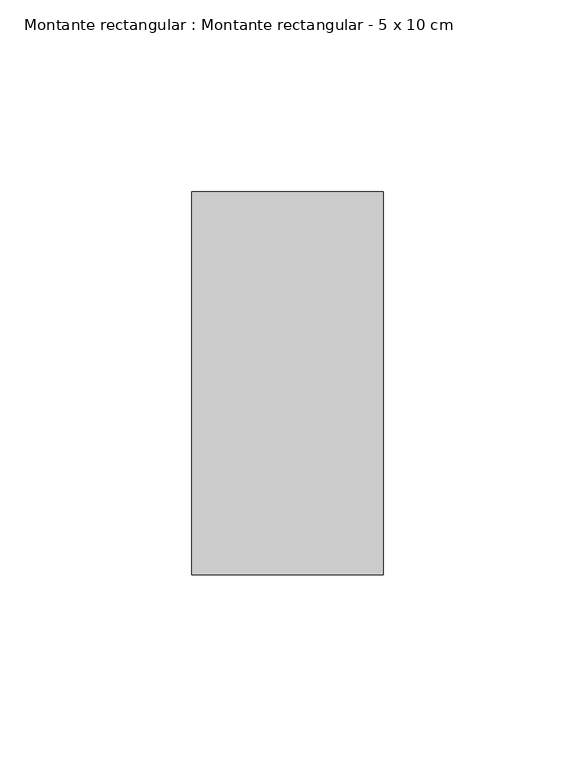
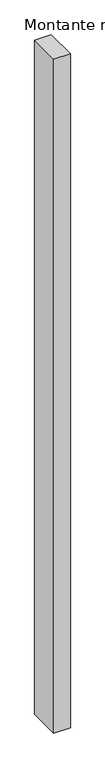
"""IFC4 building model written with IfcOpenShell, lengths in millimetres: member geometry, Montante rectangular : Montante rectangular - 5 x 10 cm."""

from ifc_helpers import new_model, si_unit, frame, origin, place, context, project, spatial, polyline, outline, extrude, source, transform, mapped, element, save


def montante_rectangular_montante_rectangular_5_x_10_cm_8fbfadf1(model_context):
    return source(origin(), model_context, "Body", "SweptSolid", [
        extrude(outline(polyline([(25.0, 50.0), (25.0, -50.0), (-25.0, -50.0), (-25.0, 50.0), (25.0, 50.0)])), frame((0.0, 0.0, -2156.1603928), z_axis=(0.0, 0.0, 1.0), x_axis=(1.0, 0.0, 0.0)), (0.0, 0.0, 1.0), 2156.1603928),
    ])


if __name__ == "__main__":
    model = new_model("IFC4")
    model_context = context("Model", 3, world=origin())
    ifc_project = project(units=[si_unit("LENGTHUNIT", "METRE", prefix="MILLI")], contexts=[model_context])
    site = spatial("IfcSite", under=ifc_project)
    building = spatial("IfcBuilding", under=site)
    placement = place(None, origin())
    montante_rectangular_montante_rectangular_5_x_10_cm_shape = montante_rectangular_montante_rectangular_5_x_10_cm_8fbfadf1(model_context)
    element("IfcMember", 1, ObjectType="Montante rectangular : Montante rectangular - 5 x 10 cm", at=placement, inside=building, context=model_context, shape_type="MappedRepresentation", body=[
        mapped(montante_rectangular_montante_rectangular_5_x_10_cm_shape, transform((0.0, 0.0, 0.0), x_axis=(1.0, 0.0, 0.0), y_axis=(0.0, 1.0, 0.0), z_axis=(0.0, 0.0, 1.0))),
    ])
    save(model, "model.ifc")
